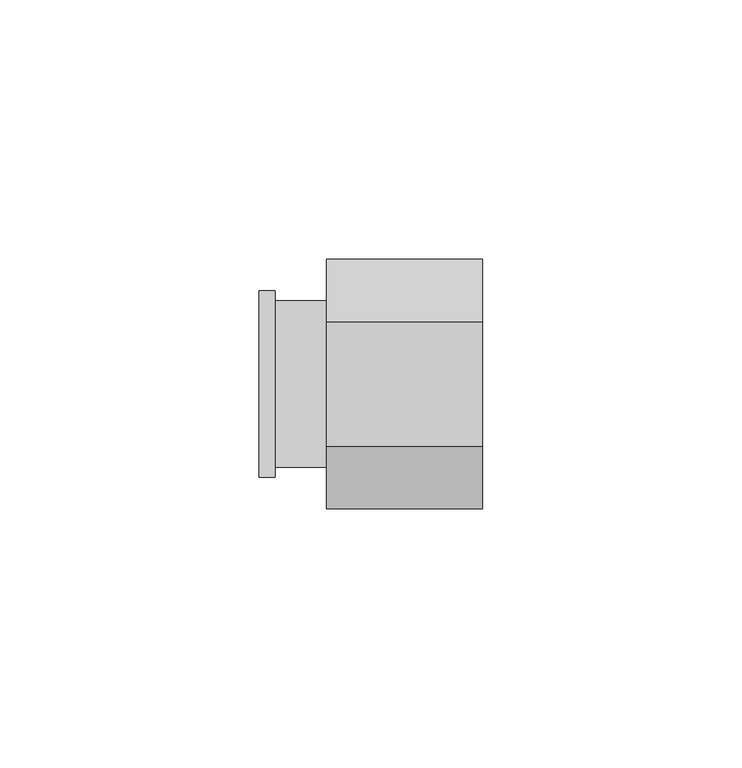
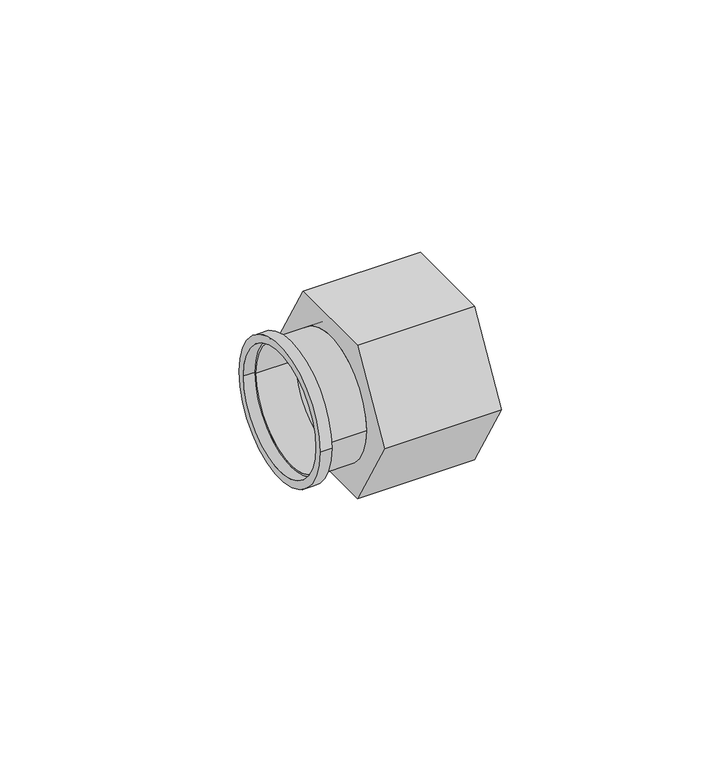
"""IFC4 building model written with IfcOpenShell, lengths in millimetres: pipe fitting geometry, БИР ПЕКС_КМП_Соединитель_Резьба_Наружная : Соединитель прямой с наружной резьбой_КМП."""

from ifc_helpers import new_model, si_unit, point, frame, origin, origin_2d, place, context, project, spatial, polyline, circle_curve, trimmed, segment, composite_curve, outline, extrude, source, transform, mapped, element, save


def pipe_fitting_43e11729(model_context):
    return source(origin(), model_context, "Body", "SweptSolid", [
        extrude(outline(polyline([(-12.0, -20.7846097), (-24.0, 0.0), (-12.0, 20.7846097), (12.0, 20.7846097), (24.0, 0.0), (12.0, -20.7846097), (-12.0, -20.7846097)]), holes=[composite_curve([segment(trimmed(circle_curve(origin_2d(), 16.0), [point((-16.0, 0.0))], [point((16.0, 0.0))], True, "CARTESIAN"), True, "CONTINUOUS"), segment(trimmed(circle_curve(origin_2d(), 16.0), [point((16.0, 0.0))], [point((-16.0, 0.0))], True, "CARTESIAN"), True, "CONTINUOUS")], self_intersect=False)]), frame((0.0, 0.0, 0.0), z_axis=(1.0, 0.0, 0.0), x_axis=(0.0, 1.0, 0.0)), (0.0, 0.0, 1.0), 30.0),
        extrude(outline(composite_curve([segment(trimmed(circle_curve(origin_2d(), 16.0), [point((-16.0, 0.0))], [point((16.0, 0.0))], False, "CARTESIAN"), True, "CONTINUOUS"), segment(trimmed(circle_curve(origin_2d(), 16.0), [point((16.0, 0.0))], [point((-16.0, 0.0))], False, "CARTESIAN"), True, "CONTINUOUS")], self_intersect=False), holes=[composite_curve([segment(trimmed(circle_curve(origin_2d(), 15.5), [point((-15.5, 0.0))], [point((15.5, 0.0))], True, "CARTESIAN"), True, "CONTINUOUS"), segment(trimmed(circle_curve(origin_2d(), 15.5), [point((15.5, 0.0))], [point((-15.5, 0.0))], True, "CARTESIAN"), True, "CONTINUOUS")], self_intersect=False)]), frame((-10.0, 0.0, 0.0), z_axis=(1.0, 0.0, 0.0), x_axis=(0.0, 1.0, 0.0)), (0.0, 0.0, 1.0), 10.0),
        extrude(outline(composite_curve([segment(trimmed(circle_curve(origin_2d(), 18.0), [point((-18.0, 0.0))], [point((18.0, 0.0))], False, "CARTESIAN"), True, "CONTINUOUS"), segment(trimmed(circle_curve(origin_2d(), 18.0), [point((18.0, 0.0))], [point((-18.0, 0.0))], False, "CARTESIAN"), True, "CONTINUOUS")], self_intersect=False), holes=[composite_curve([segment(trimmed(circle_curve(origin_2d(), 16.0), [point((-16.0, 0.0))], [point((16.0, 0.0))], True, "CARTESIAN"), True, "CONTINUOUS"), segment(trimmed(circle_curve(origin_2d(), 16.0), [point((16.0, 0.0))], [point((-16.0, 0.0))], True, "CARTESIAN"), True, "CONTINUOUS")], self_intersect=False)]), frame((-13.0, 0.0, 0.0), z_axis=(1.0, 0.0, 0.0), x_axis=(0.0, 1.0, 0.0)), (0.0, 0.0, 1.0), 3.0),
    ])


if __name__ == "__main__":
    model = new_model("IFC4")
    model_context = context("Model", 3, world=origin())
    ifc_project = project(units=[si_unit("LENGTHUNIT", "METRE", prefix="MILLI")], contexts=[model_context])
    site = spatial("IfcSite", under=ifc_project)
    building = spatial("IfcBuilding", under=site)
    placement = place(None, origin())
    pipe_fitting_shape = pipe_fitting_43e11729(model_context)
    element("IfcPipeFitting", 1, ObjectType="БИР ПЕКС_КМП_Соединитель_Резьба_Наружная : Соединитель прямой с наружной резьбой_КМП", at=placement, inside=building, context=model_context, shape_type="MappedRepresentation", body=[
        mapped(pipe_fitting_shape, transform((0.0, 0.0, 0.0), x_axis=(1.0, 0.0, 0.0), y_axis=(0.0, 1.0, 0.0), z_axis=(0.0, 0.0, 1.0))),
    ])
    save(model, "model.ifc")
